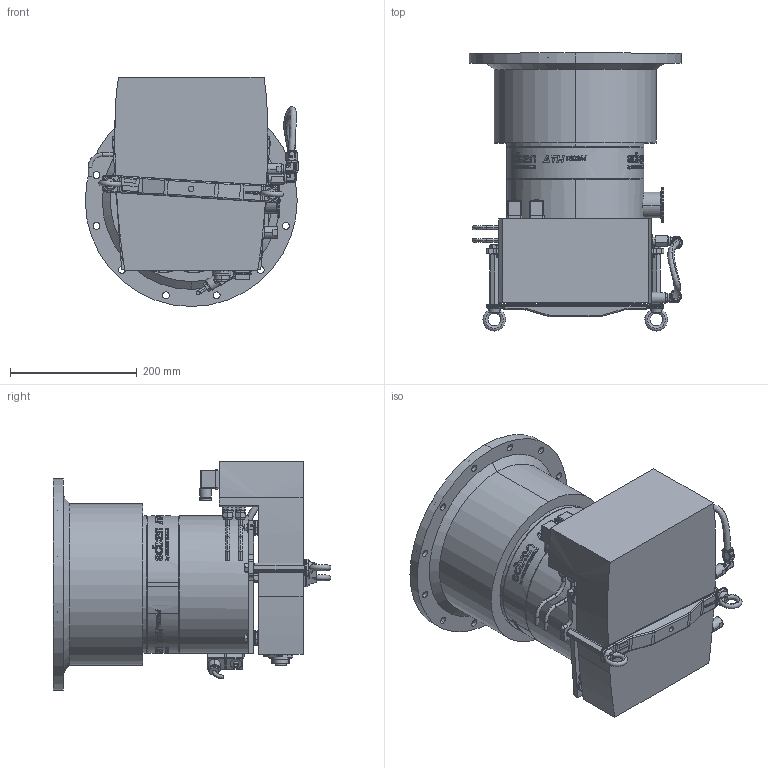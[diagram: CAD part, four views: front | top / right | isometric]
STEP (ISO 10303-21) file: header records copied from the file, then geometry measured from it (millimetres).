
FILE_DESCRIPTION((''),'2;1');
FILE_NAME('ENV-ATH1603M-YN66215A','2017-05-04T',('RCRIADO'),(''),'PRO/ENGINEER BY PARAMETRIC TECHNOLOGY CORPORATION, 2015280','PRO/ENGINEER BY PARAMETRIC TECHNOLOGY CORPORATION, 2015280','');
FILE_SCHEMA(('CONFIG_CONTROL_DESIGN'));
Products named in the file (1): ENV-ATH1603M-YN66215A
Bounding box: 337.43 x 439.15 x 362 mm (x, y, z)
Volume: 20601919 mm3; surface area: 848046.6 mm2
Topology: 1 solids, 18 shells, 4923 faces, 12891 edges, 8293 vertices
Faces by surface type: plane 1824, bspline 1308, cylinder 1130, cone 515, torus 100, sphere 44, extrusion 2
Entity records: 186892 total; most frequent: CARTESIAN_POINT 75156, ORIENTED_EDGE 25722, DIRECTION 19045, EDGE_CURVE 12861, VERTEX_POINT 8293, AXIS2_PLACEMENT_3D 6646, VECTOR 5753, LINE 5751
